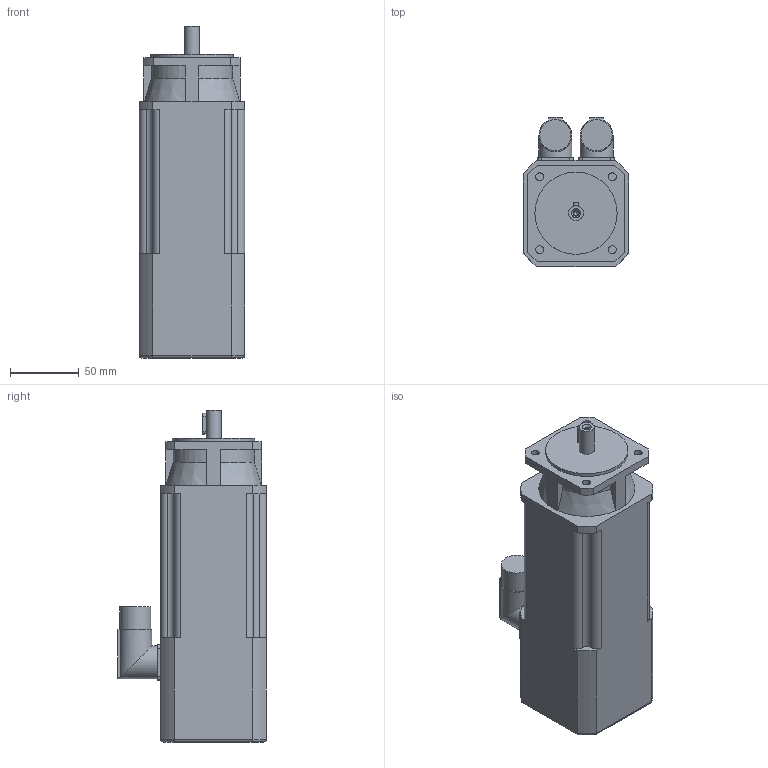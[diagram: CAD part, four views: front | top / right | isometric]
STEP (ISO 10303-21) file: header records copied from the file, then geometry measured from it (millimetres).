
FILE_DESCRIPTION(/* description */ (''),/* implementation_level */ '2;1');
FILE_NAME(/* name */ '\\Lafnas01\disegni\Archivi Lafert\3D\CAD 3D\MODELLI\Assiemi clienti\Serad\Modelli 3D Serad\B36I\Encoder\Enc With Brake\B36D6Ixx6BRx2033.ipt.stp',/* time_stamp */ '2015-09-07T10:48:54+02:00',/* author */ ('Pastrello Ylenia'),/* organization */ (''),/* preprocessor_version */ 'ST-DEVELOPER v15.6',/* originating_system */ 'Autodesk Inventor 2015',/* authorisation */ '');
FILE_SCHEMA (('AUTOMOTIVE_DESIGN { 1 0 10303 214 3 1 1 }'));
Length unit declared in the file: millimetre
Products named in the file (1): B36D6Ixx6BRx2033
Bounding box: 77 x 108.5 x 242 mm (x, y, z)
Volume: 1228681.2 mm3; surface area: 86073 mm2
Topology: 1 solids, 1 shells, 135 faces, 364 edges, 240 vertices
Faces by surface type: plane 64, cylinder 56, cone 11, torus 4
Full cylindrical faces by diameter (mm): 3.242 x1, 4.3 x1, 5.8 x4, 11 x1, 22.7 x2, 24 x2, 60 x1
Entity records: 4274 total; most frequent: CARTESIAN_POINT 876, DIRECTION 712, ORIENTED_EDGE 686, EDGE_CURVE 343, AXIS2_PLACEMENT_3D 255, VERTEX_POINT 235, LINE 202, VECTOR 202
